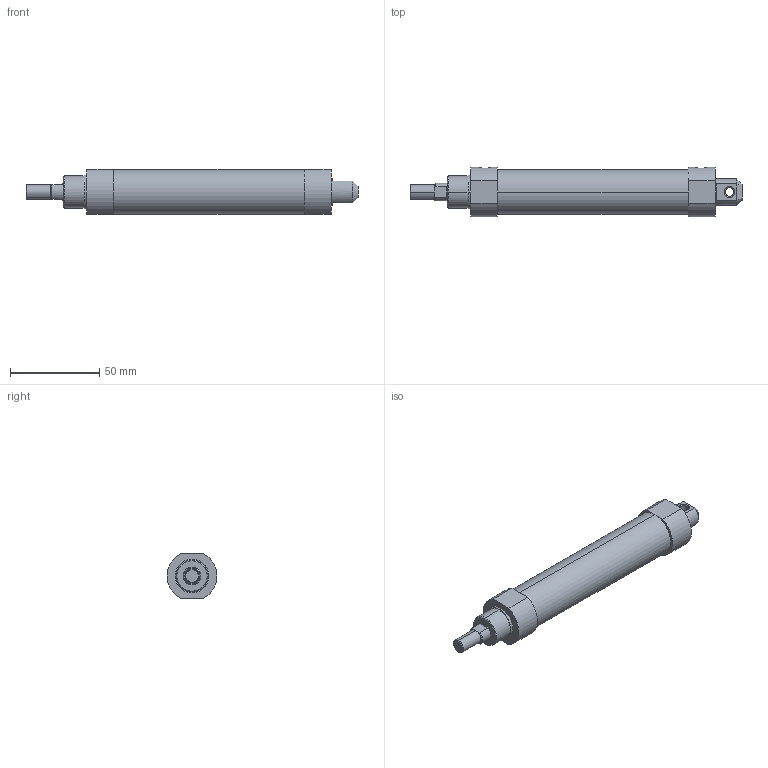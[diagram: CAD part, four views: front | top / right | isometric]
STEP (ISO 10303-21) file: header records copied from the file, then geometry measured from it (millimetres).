
FILE_DESCRIPTION (( 'STEP AP203' ), '1' );
FILE_NAME ('J#2-20-75-C.STEP', '2016-03-08T06:59:31', ( '' ), ( '' ), 'SwSTEP 2.0', 'SolidWorks 2014', '' );
FILE_SCHEMA (( 'CONFIG_CONTROL_DESIGN' ));
Length unit declared in the file: millimetre
Products named in the file (1): J#2-20-75-C
Bounding box: 186 x 27.95 x 25 mm (x, y, z)
Volume: 75210.7 mm3; surface area: 15124.1 mm2
Topology: 1 solids, 1 shells, 62 faces, 138 edges, 84 vertices
Faces by surface type: plane 28, cylinder 22, cone 12
Entity records: 1923 total; most frequent: CARTESIAN_POINT 441, DIRECTION 312, ORIENTED_EDGE 276, EDGE_CURVE 138, AXIS2_PLACEMENT_3D 123, VERTEX_POINT 84, EDGE_LOOP 70, VECTOR 66
